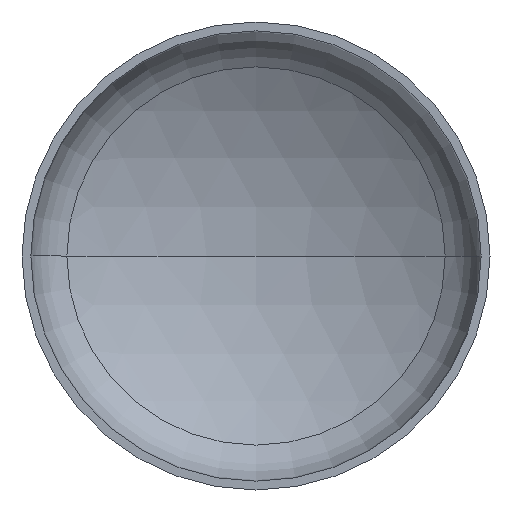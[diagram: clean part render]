
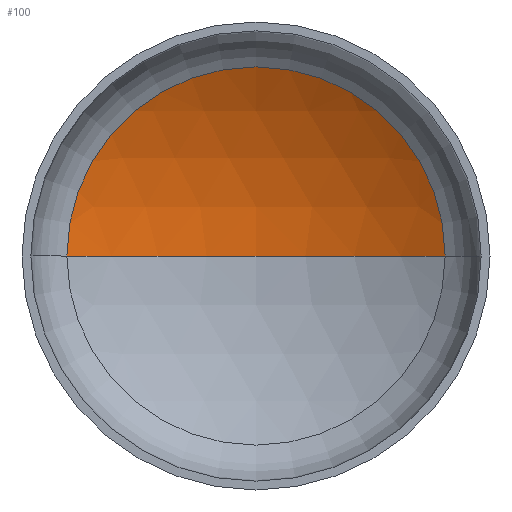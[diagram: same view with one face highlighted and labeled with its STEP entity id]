
A CAD part, front view. The second image highlights one B-rep face of the part: STEP entity #100.
In plain terms, the highlighted spherical face has radius 720 mm.
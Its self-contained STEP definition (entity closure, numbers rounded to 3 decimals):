
#5 = AXIS2_PLACEMENT_3D ( 'NONE', #9, #271, #84 ) ;
#8 = AXIS2_PLACEMENT_3D ( 'NONE', #322, #221, #259 ) ;
#9 = CARTESIAN_POINT ( 'NONE',  ( 0., -445.551, 0. ) ) ;
#26 = EDGE_LOOP ( 'NONE', ( #124, #398, #148 ) ) ;
#40 = AXIS2_PLACEMENT_3D ( 'NONE', #279, #340, #278 ) ;
#84 = DIRECTION ( 'NONE',  ( -1., 0., 0. ) ) ;
#85 = SPHERICAL_SURFACE ( 'NONE', #40, 720. ) ;
#96 = VERTEX_POINT ( 'NONE', #308 ) ;
#100 = ADVANCED_FACE ( 'NONE', ( #380 ), #85, .F. ) ;
#124 = ORIENTED_EDGE ( 'NONE', *, *, #357, .F. ) ;
#138 = VERTEX_POINT ( 'NONE', #292 ) ;
#148 = ORIENTED_EDGE ( 'NONE', *, *, #377, .T. ) ;
#149 = VERTEX_POINT ( 'NONE', #204 ) ;
#204 = CARTESIAN_POINT ( 'NONE',  ( -363.724, 175.823, 0. ) ) ;
#221 = DIRECTION ( 'NONE',  ( 0., 0., 1. ) ) ;
#229 = DIRECTION ( 'NONE',  ( 1., 0., 0. ) ) ;
#259 = DIRECTION ( 'NONE',  ( 1., 0., 0. ) ) ;
#264 = CIRCLE ( 'NONE', #8, 720. ) ;
#271 = DIRECTION ( 'NONE',  ( 0., 0., -1. ) ) ;
#278 = DIRECTION ( 'NONE',  ( -1., 0., 0. ) ) ;
#279 = CARTESIAN_POINT ( 'NONE',  ( 0., -445.551, 0. ) ) ;
#292 = CARTESIAN_POINT ( 'NONE',  ( 0., 274.449, 0. ) ) ;
#308 = CARTESIAN_POINT ( 'NONE',  ( 363.724, 175.823, 0. ) ) ;
#322 = CARTESIAN_POINT ( 'NONE',  ( 0., -445.551, 0. ) ) ;
#329 = CIRCLE ( 'NONE', #5, 720. ) ;
#339 = AXIS2_PLACEMENT_3D ( 'NONE', #371, #372, #229 ) ;
#340 = DIRECTION ( 'NONE',  ( 0., 0., -1. ) ) ;
#357 = EDGE_CURVE ( 'NONE', #138, #149, #264, .T. ) ;
#371 = CARTESIAN_POINT ( 'NONE',  ( 0., 175.823, 0. ) ) ;
#372 = DIRECTION ( 'NONE',  ( 0., -1., 0. ) ) ;
#376 = EDGE_CURVE ( 'NONE', #138, #96, #329, .T. ) ;
#377 = EDGE_CURVE ( 'NONE', #96, #149, #388, .T. ) ;
#380 = FACE_OUTER_BOUND ( 'NONE', #26, .T. ) ;
#388 = CIRCLE ( 'NONE', #339, 363.724 ) ;
#398 = ORIENTED_EDGE ( 'NONE', *, *, #376, .T. ) ;
